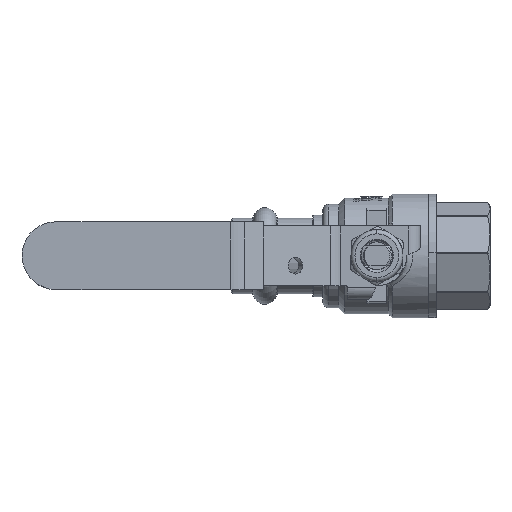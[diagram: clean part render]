
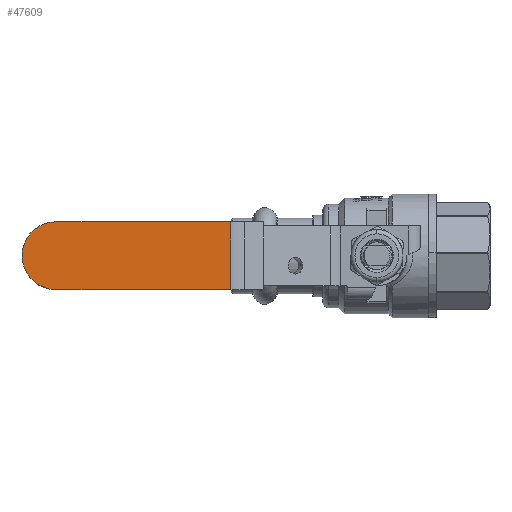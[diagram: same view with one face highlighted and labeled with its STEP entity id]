
A CAD part, top view. The second image highlights one B-rep face of the part: STEP entity #47609.
In plain terms, the highlighted planar face has unit normal (0, 0, 1).
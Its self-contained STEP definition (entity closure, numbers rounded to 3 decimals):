
#47093 = PLANE('',#47094);
#47094 = AXIS2_PLACEMENT_3D('',#47095,#47096,#47097);
#47095 = CARTESIAN_POINT('',(-36.668,-27.57,
    41.962));
#47096 = DIRECTION('',(0.,1.,0.));
#47097 = DIRECTION('',(0.,0.,-1.));
#47122 = CYLINDRICAL_SURFACE('',#47123,8.5);
#47123 = AXIS2_PLACEMENT_3D('',#47124,#47125,#47126);
#47124 = CARTESIAN_POINT('',(-80.604,-19.07,
    45.362));
#47125 = DIRECTION('',(0.,0.,-1.));
#47126 = DIRECTION('',(1.,0.,0.));
#47151 = CYLINDRICAL_SURFACE('',#47152,8.5);
#47152 = AXIS2_PLACEMENT_3D('',#47153,#47154,#47155);
#47153 = CARTESIAN_POINT('',(-80.604,-19.07,
    41.962));
#47154 = DIRECTION('',(0.,0.,1.));
#47155 = DIRECTION('',(-1.,0.,0.));
#47179 = PLANE('',#47180);
#47180 = AXIS2_PLACEMENT_3D('',#47181,#47182,#47183);
#47181 = CARTESIAN_POINT('',(-36.668,-10.57,
    41.962));
#47182 = DIRECTION('',(0.,1.,0.));
#47183 = DIRECTION('',(0.,0.,-1.));
#47499 = CYLINDRICAL_SURFACE('',#47500,6.6);
#47500 = AXIS2_PLACEMENT_3D('',#47501,#47502,#47503);
#47501 = CARTESIAN_POINT('',(-36.668,-27.57,
    41.962));
#47502 = DIRECTION('',(0.,1.,0.));
#47503 = DIRECTION('',(0.,0.,-1.));
#47537 = VERTEX_POINT('',#47538);
#47538 = CARTESIAN_POINT('',(-36.668,-10.57,
    48.562));
#47560 = EDGE_CURVE('',#47561,#47537,#47563,.T.);
#47561 = VERTEX_POINT('',#47562);
#47562 = CARTESIAN_POINT('',(-36.668,-27.57,
    48.562));
#47563 = SURFACE_CURVE('',#47564,(#47568,#47575),.PCURVE_S1.);
#47564 = LINE('',#47565,#47566);
#47565 = CARTESIAN_POINT('',(-36.668,-27.57,
    48.562));
#47566 = VECTOR('',#47567,1.);
#47567 = DIRECTION('',(0.,1.,0.));
#47568 = PCURVE('',#47499,#47569);
#47569 = DEFINITIONAL_REPRESENTATION('',(#47570),#47574);
#47570 = LINE('',#47571,#47572);
#47571 = CARTESIAN_POINT('',(3.142,0.));
#47572 = VECTOR('',#47573,1.);
#47573 = DIRECTION('',(0.,1.));
#47574 = ( GEOMETRIC_REPRESENTATION_CONTEXT(2) 
PARAMETRIC_REPRESENTATION_CONTEXT() REPRESENTATION_CONTEXT('2D SPACE',''
  ) );
#47575 = PCURVE('',#47576,#47581);
#47576 = PLANE('',#47577);
#47577 = AXIS2_PLACEMENT_3D('',#47578,#47579,#47580);
#47578 = CARTESIAN_POINT('',(-89.104,-27.57,
    48.562));
#47579 = DIRECTION('',(0.,0.,1.));
#47580 = DIRECTION('',(-1.,0.,0.));
#47581 = DEFINITIONAL_REPRESENTATION('',(#47582),#47586);
#47582 = LINE('',#47583,#47584);
#47583 = CARTESIAN_POINT('',(-52.436,-0.));
#47584 = VECTOR('',#47585,1.);
#47585 = DIRECTION('',(0.,-1.));
#47586 = ( GEOMETRIC_REPRESENTATION_CONTEXT(2) 
PARAMETRIC_REPRESENTATION_CONTEXT() REPRESENTATION_CONTEXT('2D SPACE',''
  ) );
#47609 = ADVANCED_FACE('',(#47610),#47576,.T.);
#47610 = FACE_BOUND('',#47611,.T.);
#47611 = EDGE_LOOP('',(#47612,#47638,#47662,#47683,#47684));
#47612 = ORIENTED_EDGE('',*,*,#47613,.T.);
#47613 = EDGE_CURVE('',#47614,#47616,#47618,.T.);
#47614 = VERTEX_POINT('',#47615);
#47615 = CARTESIAN_POINT('',(-80.604,-10.57,
    48.562));
#47616 = VERTEX_POINT('',#47617);
#47617 = CARTESIAN_POINT('',(-89.104,-19.07,
    48.562));
#47618 = SURFACE_CURVE('',#47619,(#47624,#47631),.PCURVE_S1.);
#47619 = CIRCLE('',#47620,8.5);
#47620 = AXIS2_PLACEMENT_3D('',#47621,#47622,#47623);
#47621 = CARTESIAN_POINT('',(-80.604,-19.07,
    48.562));
#47622 = DIRECTION('',(0.,0.,1.));
#47623 = DIRECTION('',(-1.,0.,0.));
#47624 = PCURVE('',#47576,#47625);
#47625 = DEFINITIONAL_REPRESENTATION('',(#47626),#47630);
#47626 = CIRCLE('',#47627,8.5);
#47627 = AXIS2_PLACEMENT_2D('',#47628,#47629);
#47628 = CARTESIAN_POINT('',(-8.5,-8.5));
#47629 = DIRECTION('',(1.,0.));
#47630 = ( GEOMETRIC_REPRESENTATION_CONTEXT(2) 
PARAMETRIC_REPRESENTATION_CONTEXT() REPRESENTATION_CONTEXT('2D SPACE',''
  ) );
#47631 = PCURVE('',#47151,#47632);
#47632 = DEFINITIONAL_REPRESENTATION('',(#47633),#47637);
#47633 = LINE('',#47634,#47635);
#47634 = CARTESIAN_POINT('',(0.,6.6));
#47635 = VECTOR('',#47636,1.);
#47636 = DIRECTION('',(1.,0.));
#47637 = ( GEOMETRIC_REPRESENTATION_CONTEXT(2) 
PARAMETRIC_REPRESENTATION_CONTEXT() REPRESENTATION_CONTEXT('2D SPACE',''
  ) );
#47638 = ORIENTED_EDGE('',*,*,#47639,.T.);
#47639 = EDGE_CURVE('',#47616,#47640,#47642,.T.);
#47640 = VERTEX_POINT('',#47641);
#47641 = CARTESIAN_POINT('',(-80.604,-27.57,
    48.562));
#47642 = SURFACE_CURVE('',#47643,(#47648,#47655),.PCURVE_S1.);
#47643 = CIRCLE('',#47644,8.5);
#47644 = AXIS2_PLACEMENT_3D('',#47645,#47646,#47647);
#47645 = CARTESIAN_POINT('',(-80.604,-19.07,
    48.562));
#47646 = DIRECTION('',(0.,0.,1.));
#47647 = DIRECTION('',(-1.,0.,0.));
#47648 = PCURVE('',#47576,#47649);
#47649 = DEFINITIONAL_REPRESENTATION('',(#47650),#47654);
#47650 = CIRCLE('',#47651,8.5);
#47651 = AXIS2_PLACEMENT_2D('',#47652,#47653);
#47652 = CARTESIAN_POINT('',(-8.5,-8.5));
#47653 = DIRECTION('',(1.,0.));
#47654 = ( GEOMETRIC_REPRESENTATION_CONTEXT(2) 
PARAMETRIC_REPRESENTATION_CONTEXT() REPRESENTATION_CONTEXT('2D SPACE',''
  ) );
#47655 = PCURVE('',#47122,#47656);
#47656 = DEFINITIONAL_REPRESENTATION('',(#47657),#47661);
#47657 = LINE('',#47658,#47659);
#47658 = CARTESIAN_POINT('',(3.142,-3.2));
#47659 = VECTOR('',#47660,1.);
#47660 = DIRECTION('',(-1.,0.));
#47661 = ( GEOMETRIC_REPRESENTATION_CONTEXT(2) 
PARAMETRIC_REPRESENTATION_CONTEXT() REPRESENTATION_CONTEXT('2D SPACE',''
  ) );
#47662 = ORIENTED_EDGE('',*,*,#47663,.T.);
#47663 = EDGE_CURVE('',#47640,#47561,#47664,.T.);
#47664 = SURFACE_CURVE('',#47665,(#47669,#47676),.PCURVE_S1.);
#47665 = LINE('',#47666,#47667);
#47666 = CARTESIAN_POINT('',(-89.104,-27.57,
    48.562));
#47667 = VECTOR('',#47668,1.);
#47668 = DIRECTION('',(1.,0.,0.));
#47669 = PCURVE('',#47576,#47670);
#47670 = DEFINITIONAL_REPRESENTATION('',(#47671),#47675);
#47671 = LINE('',#47672,#47673);
#47672 = CARTESIAN_POINT('',(0.,-0.));
#47673 = VECTOR('',#47674,1.);
#47674 = DIRECTION('',(-1.,-0.));
#47675 = ( GEOMETRIC_REPRESENTATION_CONTEXT(2) 
PARAMETRIC_REPRESENTATION_CONTEXT() REPRESENTATION_CONTEXT('2D SPACE',''
  ) );
#47676 = PCURVE('',#47093,#47677);
#47677 = DEFINITIONAL_REPRESENTATION('',(#47678),#47682);
#47678 = LINE('',#47679,#47680);
#47679 = CARTESIAN_POINT('',(-6.6,52.436));
#47680 = VECTOR('',#47681,1.);
#47681 = DIRECTION('',(0.,-1.));
#47682 = ( GEOMETRIC_REPRESENTATION_CONTEXT(2) 
PARAMETRIC_REPRESENTATION_CONTEXT() REPRESENTATION_CONTEXT('2D SPACE',''
  ) );
#47683 = ORIENTED_EDGE('',*,*,#47560,.T.);
#47684 = ORIENTED_EDGE('',*,*,#47685,.F.);
#47685 = EDGE_CURVE('',#47614,#47537,#47686,.T.);
#47686 = SURFACE_CURVE('',#47687,(#47691,#47698),.PCURVE_S1.);
#47687 = LINE('',#47688,#47689);
#47688 = CARTESIAN_POINT('',(-89.104,-10.57,
    48.562));
#47689 = VECTOR('',#47690,1.);
#47690 = DIRECTION('',(1.,0.,0.));
#47691 = PCURVE('',#47576,#47692);
#47692 = DEFINITIONAL_REPRESENTATION('',(#47693),#47697);
#47693 = LINE('',#47694,#47695);
#47694 = CARTESIAN_POINT('',(0.,-17.));
#47695 = VECTOR('',#47696,1.);
#47696 = DIRECTION('',(-1.,-0.));
#47697 = ( GEOMETRIC_REPRESENTATION_CONTEXT(2) 
PARAMETRIC_REPRESENTATION_CONTEXT() REPRESENTATION_CONTEXT('2D SPACE',''
  ) );
#47698 = PCURVE('',#47179,#47699);
#47699 = DEFINITIONAL_REPRESENTATION('',(#47700),#47704);
#47700 = LINE('',#47701,#47702);
#47701 = CARTESIAN_POINT('',(-6.6,52.436));
#47702 = VECTOR('',#47703,1.);
#47703 = DIRECTION('',(0.,-1.));
#47704 = ( GEOMETRIC_REPRESENTATION_CONTEXT(2) 
PARAMETRIC_REPRESENTATION_CONTEXT() REPRESENTATION_CONTEXT('2D SPACE',''
  ) );
